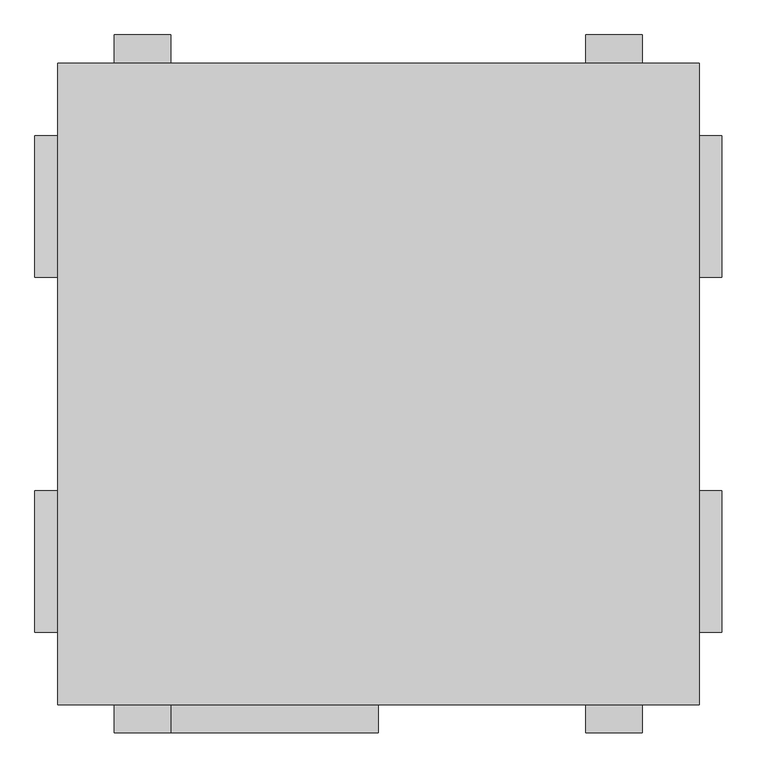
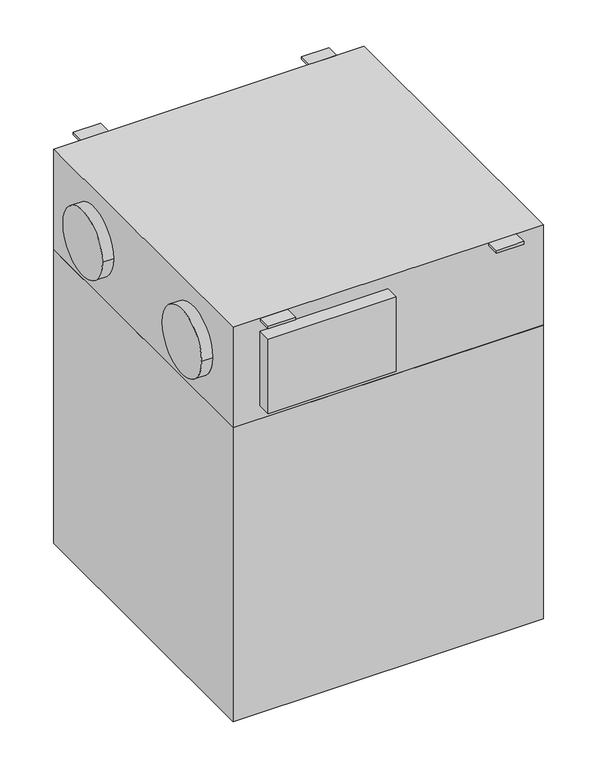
"""IFC4 building model written with IfcOpenShell, lengths in millimetres: proxy geometry, ADSK_КПВУ RONA SRME_круглая : Rona SRME 1200 H1."""

from ifc_helpers import new_model, si_unit, frame, origin, place, context, project, spatial, polyline, circle_curve, outline, extrude, source, transform, mapped, element, save
from ifc_brep_helpers import plane_surface, cylinder_surface, advanced_brep


def mechanical_equipment_83e87138(model_context):
    return source(origin(), model_context, "Body", "SolidModel", [
        extrude(outline(polyline([(833.0, 567.0), (833.0, -567.0), (-301.0, -567.0), (-301.0, 567.0), (833.0, 567.0)])), frame((0.0, 0.0, -1372.0), z_axis=(0.0, 0.0, 1.0), x_axis=(1.0, 0.0, 0.0)), (0.0, 0.0, 1.0), 1134.0),
        advanced_brep(
        [(833.0, -567.0, 150.0), (833.0, -567.0, -238.0), (833.0, 567.0, -238.0), (833.0, 567.0, 150.0), (833.0, -189.0, -44.0), (833.0, -439.0, -44.0), (833.0, 439.0, -44.0), (833.0, 189.0, -44.0), (-301.0, -567.0, 150.0), (-301.0, 567.0, 150.0), (-301.0, 567.0, -238.0), (-301.0, -567.0, -238.0), (-301.0, -189.0, -44.0), (-301.0, -439.0, -44.0), (-301.0, 189.0, -44.0), (-301.0, 439.0, -44.0), (-341.0, -439.0, -44.0), (-341.0, -189.0, -44.0), (-341.0, 189.0, -44.0), (-341.0, 439.0, -44.0), (-201.0, -567.0, 100.0), (266.0, -567.0, 100.0), (266.0, -567.0, -188.0), (-201.0, -567.0, -188.0), (873.0, -439.0, -44.0), (873.0, -189.0, -44.0), (873.0, 189.0, -44.0), (873.0, 439.0, -44.0), (-201.0, -617.0, 100.0), (266.0, -617.0, 100.0), (266.0, -617.0, -188.0), (-201.0, -617.0, -188.0)],
        [
            (0, 1),
            (1, 2),
            (2, 3),
            (3, 0),
            (4, 5, circle_curve(frame((833.0, -314.0, -44.0), z_axis=(-1.0, 0.0, 0.0), x_axis=(0.0, 1.0, 0.0)), 125.0)),
            (5, 4, circle_curve(frame((833.0, -314.0, -44.0), z_axis=(-1.0, 0.0, 0.0), x_axis=(0.0, 1.0, 0.0)), 125.0)),
            (6, 7, circle_curve(frame((833.0, 314.0, -44.0), z_axis=(-1.0, 0.0, 0.0), x_axis=(0.0, 1.0, 0.0)), 125.0)),
            (7, 6, circle_curve(frame((833.0, 314.0, -44.0), z_axis=(-1.0, 0.0, 0.0), x_axis=(0.0, 1.0, 0.0)), 125.0)),
            (8, 9),
            (9, 10),
            (10, 11),
            (11, 8),
            (12, 13, circle_curve(frame((-301.0, -314.0, -44.0), z_axis=(1.0, 0.0, 0.0), x_axis=(0.0, 1.0, 0.0)), 125.0)),
            (13, 12, circle_curve(frame((-301.0, -314.0, -44.0), z_axis=(1.0, 0.0, 0.0), x_axis=(0.0, 1.0, 0.0)), 125.0)),
            (14, 15, circle_curve(frame((-301.0, 314.0, -44.0), z_axis=(1.0, 0.0, 0.0), x_axis=(0.0, 1.0, 0.0)), 125.0)),
            (15, 14, circle_curve(frame((-301.0, 314.0, -44.0), z_axis=(1.0, 0.0, 0.0), x_axis=(0.0, 1.0, 0.0)), 125.0)),
            (16, 17, circle_curve(frame((-341.0, -314.0, -44.0), z_axis=(-1.0, 0.0, 0.0), x_axis=(0.0, 1.0, 0.0)), 125.0)),
            (17, 16, circle_curve(frame((-341.0, -314.0, -44.0), z_axis=(-1.0, 0.0, 0.0), x_axis=(0.0, 1.0, 0.0)), 125.0)),
            (18, 19, circle_curve(frame((-341.0, 314.0, -44.0), z_axis=(-1.0, 0.0, 0.0), x_axis=(0.0, 1.0, 0.0)), 125.0)),
            (19, 18, circle_curve(frame((-341.0, 314.0, -44.0), z_axis=(-1.0, 0.0, 0.0), x_axis=(0.0, 1.0, 0.0)), 125.0)),
            (0, 8),
            (11, 1),
            (20, 21),
            (21, 22),
            (22, 23),
            (23, 20),
            (10, 2),
            (9, 3),
            (16, 13),
            (12, 17),
            (24, 25, circle_curve(frame((873.0, -314.0, -44.0), z_axis=(1.0, 0.0, 0.0), x_axis=(0.0, 1.0, 0.0)), 125.0)),
            (25, 24, circle_curve(frame((873.0, -314.0, -44.0), z_axis=(1.0, 0.0, 0.0), x_axis=(0.0, 1.0, 0.0)), 125.0)),
            (26, 27, circle_curve(frame((873.0, 314.0, -44.0), z_axis=(1.0, 0.0, 0.0), x_axis=(0.0, 1.0, 0.0)), 125.0)),
            (27, 26, circle_curve(frame((873.0, 314.0, -44.0), z_axis=(1.0, 0.0, 0.0), x_axis=(0.0, 1.0, 0.0)), 125.0)),
            (24, 5),
            (4, 25),
            (19, 15),
            (14, 18),
            (26, 7),
            (6, 27),
            (20, 28),
            (28, 29),
            (29, 21),
            (22, 30),
            (30, 31),
            (31, 23),
            (31, 28),
            (30, 29),
        ],
        [
            plane_surface(frame((833.0, -567.0, 150.0), z_axis=(1.0, 0.0, 0.0), x_axis=(0.0, 0.0, -1.0))),
            plane_surface(frame((-301.0, -567.0, 150.0), z_axis=(-1.0, 0.0, 0.0), x_axis=(0.0, 0.0, 1.0))),
            plane_surface(frame((-341.0, -189.0, -44.0), z_axis=(-1.0, 0.0, 0.0), x_axis=(0.0, 0.0, -1.0))),
            plane_surface(frame((833.0, -567.0, 150.0), z_axis=(0.0, -1.0, 0.0), x_axis=(-1.0, 0.0, 0.0))),
            plane_surface(frame((833.0, -567.0, -238.0), z_axis=(0.0, 0.0, -1.0), x_axis=(-1.0, 0.0, 0.0))),
            plane_surface(frame((833.0, 567.0, -238.0), z_axis=(0.0, 1.0, 0.0), x_axis=(-1.0, 0.0, 0.0))),
            plane_surface(frame((833.0, 567.0, 150.0), z_axis=(0.0, 0.0, 1.0), x_axis=(-1.0, 0.0, 0.0))),
            cylinder_surface(frame((-341.0, -314.0, -44.0), z_axis=(1.0, 0.0, 0.0), x_axis=(0.0, 1.0, 0.0)), 125.0),
            plane_surface(frame((873.0, -189.0, -44.0), z_axis=(1.0, 0.0, 0.0), x_axis=(0.0, 0.0, 1.0))),
            cylinder_surface(frame((833.0, -314.0, -44.0), z_axis=(1.0, 0.0, 0.0), x_axis=(0.0, 1.0, 0.0)), 125.0),
            cylinder_surface(frame((-341.0, 314.0, -44.0), z_axis=(1.0, 0.0, 0.0), x_axis=(0.0, 1.0, 0.0)), 125.0),
            cylinder_surface(frame((833.0, 314.0, -44.0), z_axis=(1.0, 0.0, 0.0), x_axis=(0.0, 1.0, 0.0)), 125.0),
            plane_surface(frame((-201.0, -567.0, 100.0), z_axis=(0.0, 0.0, 1.0), x_axis=(-1.0, 0.0, 0.0))),
            plane_surface(frame((-201.0, -567.0, -188.0), z_axis=(0.0, 0.0, -1.0), x_axis=(1.0, 0.0, 0.0))),
            plane_surface(frame((-201.0, -567.0, 100.0), z_axis=(-1.0, 0.0, 0.0), x_axis=(0.0, 0.0, -1.0))),
            plane_surface(frame((-201.0, -617.0, 100.0), z_axis=(0.0, -1.0, 0.0), x_axis=(0.0, 0.0, -1.0))),
            plane_surface(frame((266.0, -617.0, 100.0), z_axis=(1.0, 0.0, 0.0), x_axis=(0.0, 0.0, -1.0))),
        ],
        [
            (0, [[1, 2, 3, 4], [5, 6], [7, 8]]),
            (1, [[9, 10, 11, 12], [13, 14], [15, 16]]),
            (2, [[17, 18]]),
            (2, [[19, 20]]),
            (3, [[-1, 21, -12, 22], [23, 24, 25, 26]]),
            (4, [[-2, -22, -11, 27]]),
            (5, [[-3, -27, -10, 28]]),
            (6, [[-4, -28, -9, -21]]),
            (7, [[-17, 29, -13, 30]]),
            (7, [[-18, -30, -14, -29]]),
            (8, [[31, 32]]),
            (8, [[33, 34]]),
            (9, [[-31, 35, -5, 36]]),
            (9, [[-32, -36, -6, -35]]),
            (10, [[-20, 37, -15, 38]]),
            (10, [[-19, -38, -16, -37]]),
            (11, [[-33, 39, -7, 40]]),
            (11, [[-34, -40, -8, -39]]),
            (12, [[41, 42, 43, -23]]),
            (13, [[44, 45, 46, -25]]),
            (14, [[-41, -26, -46, 47]]),
            (15, [[-42, -47, -45, 48]]),
            (16, [[-43, -48, -44, -24]]),
        ],
    ),
        extrude(outline(polyline([(-101.0, 617.0), (-101.0, 567.0), (-201.0, 567.0), (-201.0, 617.0), (-101.0, 617.0)])), frame((0.0, 0.0, 140.0), z_axis=(0.0, 0.0, 1.0), x_axis=(1.0, 0.0, 0.0)), (0.0, 0.0, 1.0), 10.0),
        extrude(outline(polyline([(633.0, 617.0), (733.0, 617.0), (733.0, 567.0), (633.0, 567.0), (633.0, 617.0)])), frame((0.0, 0.0, 140.0), z_axis=(0.0, 0.0, 1.0), x_axis=(1.0, 0.0, 0.0)), (0.0, 0.0, 1.0), 10.0),
        extrude(outline(polyline([(-101.0, -617.0), (-201.0, -617.0), (-201.0, -567.0), (-101.0, -567.0), (-101.0, -617.0)])), frame((0.0, 0.0, 140.0), z_axis=(0.0, 0.0, 1.0), x_axis=(1.0, 0.0, 0.0)), (0.0, 0.0, 1.0), 10.0),
        extrude(outline(polyline([(633.0, -617.0), (633.0, -567.0), (733.0, -567.0), (733.0, -617.0), (633.0, -617.0)])), frame((0.0, 0.0, 140.0), z_axis=(0.0, 0.0, 1.0), x_axis=(1.0, 0.0, 0.0)), (0.0, 0.0, 1.0), 10.0),
    ])


if __name__ == "__main__":
    model = new_model("IFC4")
    model_context = context("Model", 3, world=origin())
    ifc_project = project(units=[si_unit("LENGTHUNIT", "METRE", prefix="MILLI")], contexts=[model_context])
    site = spatial("IfcSite", under=ifc_project)
    building = spatial("IfcBuilding", under=site)
    placement = place(None, origin())
    mechanical_equipment_shape = mechanical_equipment_83e87138(model_context)
    element("IfcBuildingElementProxy", 1, Name="ADSK_КПВУ RONA SRME_круглая : Rona SRME 1200 H1", ObjectType="ADSK_КПВУ RONA SRME_круглая : Rona SRME 1200 H1", at=placement, inside=building, context=model_context, shape_type="MappedRepresentation", body=[
        mapped(mechanical_equipment_shape, transform((0.0, 0.0, 0.0), x_axis=(1.0, 0.0, 0.0), y_axis=(0.0, 1.0, 0.0), z_axis=(0.0, 0.0, 1.0))),
    ])
    save(model, "model.ifc")
